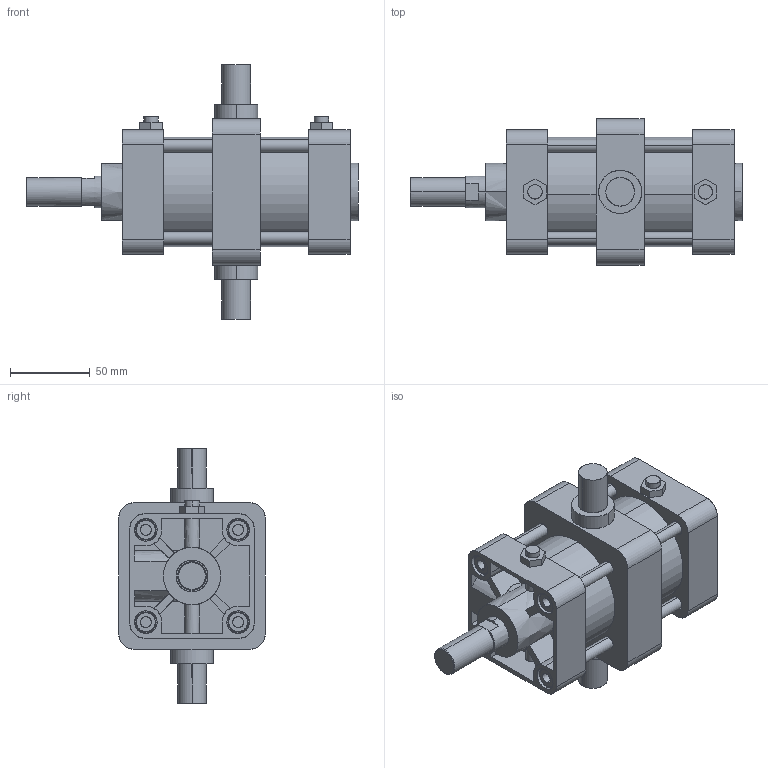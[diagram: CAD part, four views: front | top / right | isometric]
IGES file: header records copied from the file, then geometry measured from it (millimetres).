
Start section: SolidWorks IGES file using analytic representation for surfaces
Global section: file name: C:\Users\Toshiba\Desktop\KG2-63-50-T.IGS; native system: SolidWorks 2014; preprocessor: SolidWorks 2014; author: Toshiba; date: 160401.161651; units: millimetre
Bounding box: 208.5 x 92 x 160 mm (x, y, z)
Surface area: 152720.7 mm2 (no closed solid volume)
Topology: 0 solids, 0 shells, 347 faces, 5718 edges, 5714 vertices
Faces by surface type: bspline 179, revolution 168
